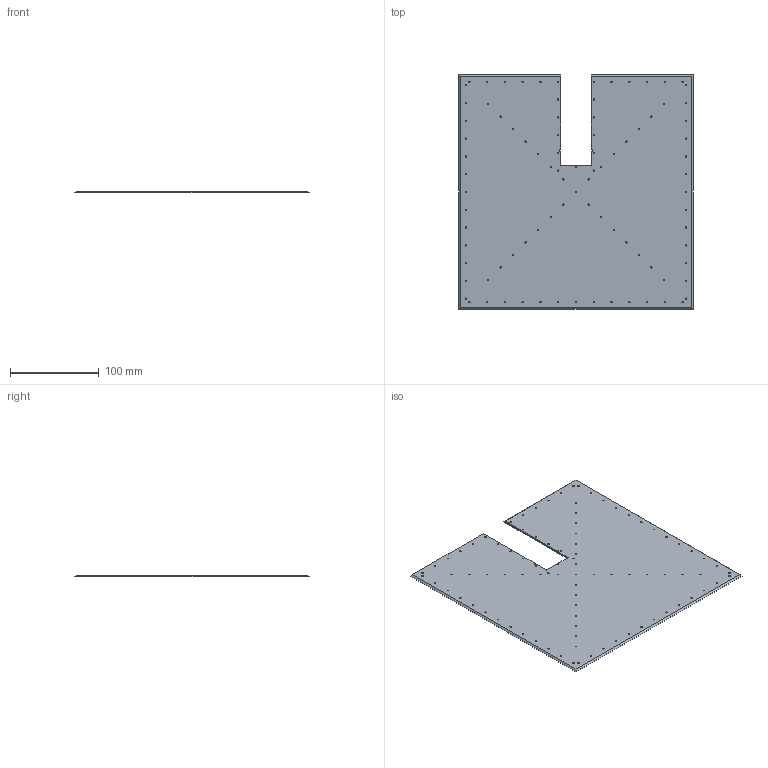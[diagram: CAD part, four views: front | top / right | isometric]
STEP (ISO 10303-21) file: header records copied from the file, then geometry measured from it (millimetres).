
FILE_DESCRIPTION (( 'STEP AP214' ), '1' );
FILE_NAME ('SC36.STEP', '2016-02-26T17:31:36', ( '' ), ( '' ), 'SwSTEP 2.0', 'SolidWorks 2012', '' );
FILE_SCHEMA (( 'AUTOMOTIVE_DESIGN' ));
Length unit declared in the file: millimetre
Products named in the file (1): SC36
Bounding box: 264 x 264 x 2 mm (x, y, z)
Volume: 129982.6 mm3; surface area: 134253.9 mm2
Topology: 1 solids, 1 shells, 206 faces, 612 edges, 408 vertices
Faces by surface type: cylinder 187, plane 19
Entity records: 7524 total; most frequent: DIRECTION 1400, CARTESIAN_POINT 1227, ORIENTED_EDGE 1224, EDGE_CURVE 612, AXIS2_PLACEMENT_3D 581, VERTEX_POINT 408, EDGE_LOOP 386, CIRCLE 374
